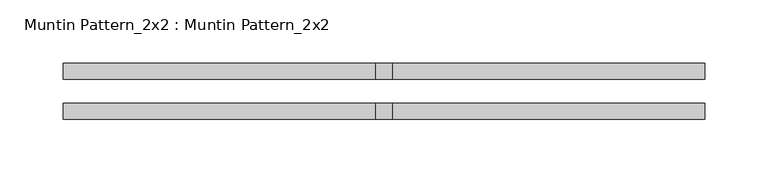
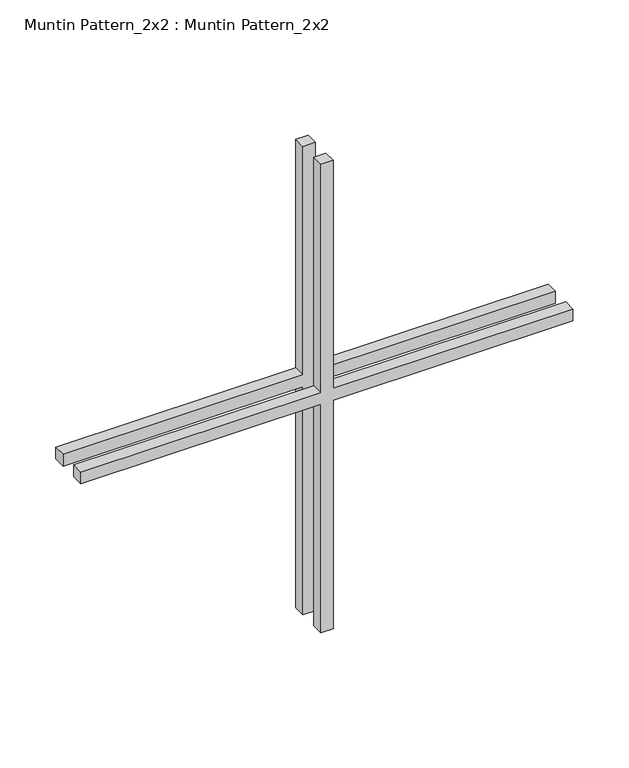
"""IFC4 building model written with IfcOpenShell, lengths in millimetres: proxy geometry, Muntin Pattern_2x2 : Muntin Pattern_2x2."""

from ifc_helpers import new_model, si_unit, frame, origin, place, context, project, spatial, polyline, outline, extrude, source, transform, mapped, element, save


def muntin_pattern_2x2_muntin_pattern_2x2_90c02736(model_context):
    return source(origin(), model_context, "Body", "SweptSolid", [
        extrude(outline(polyline([(261.9375, -6.35), (261.9375, -254.0), (249.2375, -254.0), (249.2375, -6.35), (0.0, -6.35), (0.0, 6.35), (249.2375, 6.35), (249.2375, 254.0), (261.9375, 254.0), (261.9375, 6.35), (511.175, 6.35), (511.175, -6.35), (261.9375, -6.35)])), frame((0.0, 9.525, 0.0), z_axis=(0.0, 1.0, 0.0), x_axis=(0.0, 0.0, 1.0)), (0.0, 0.0, 1.0), 12.7),
        extrude(outline(polyline([(261.9375, -6.35), (261.9375, -254.0), (249.2375, -254.0), (249.2375, -6.35), (0.0, -6.35), (0.0, 6.35), (249.2375, 6.35), (249.2375, 254.0), (261.9375, 254.0), (261.9375, 6.35), (511.175, 6.35), (511.175, -6.35), (261.9375, -6.35)])), frame((0.0, -22.225, 0.0), z_axis=(0.0, 1.0, 0.0), x_axis=(0.0, 0.0, 1.0)), (0.0, 0.0, 1.0), 12.7),
    ])


if __name__ == "__main__":
    model = new_model("IFC4")
    model_context = context("Model", 3, world=origin())
    ifc_project = project(units=[si_unit("LENGTHUNIT", "METRE", prefix="MILLI")], contexts=[model_context])
    site = spatial("IfcSite", under=ifc_project)
    building = spatial("IfcBuilding", under=site)
    placement = place(None, origin())
    muntin_pattern_2x2_muntin_pattern_2x2_shape = muntin_pattern_2x2_muntin_pattern_2x2_90c02736(model_context)
    element("IfcBuildingElementProxy", 1, Name="Muntin Pattern_2x2 : Muntin Pattern_2x2", ObjectType="Muntin Pattern_2x2 : Muntin Pattern_2x2", at=placement, inside=building, context=model_context, shape_type="MappedRepresentation", body=[
        mapped(muntin_pattern_2x2_muntin_pattern_2x2_shape, transform((0.0, 0.0, 0.0), x_axis=(1.0, 0.0, 0.0), y_axis=(0.0, 1.0, 0.0), z_axis=(0.0, 0.0, 1.0))),
    ])
    save(model, "model.ifc")
